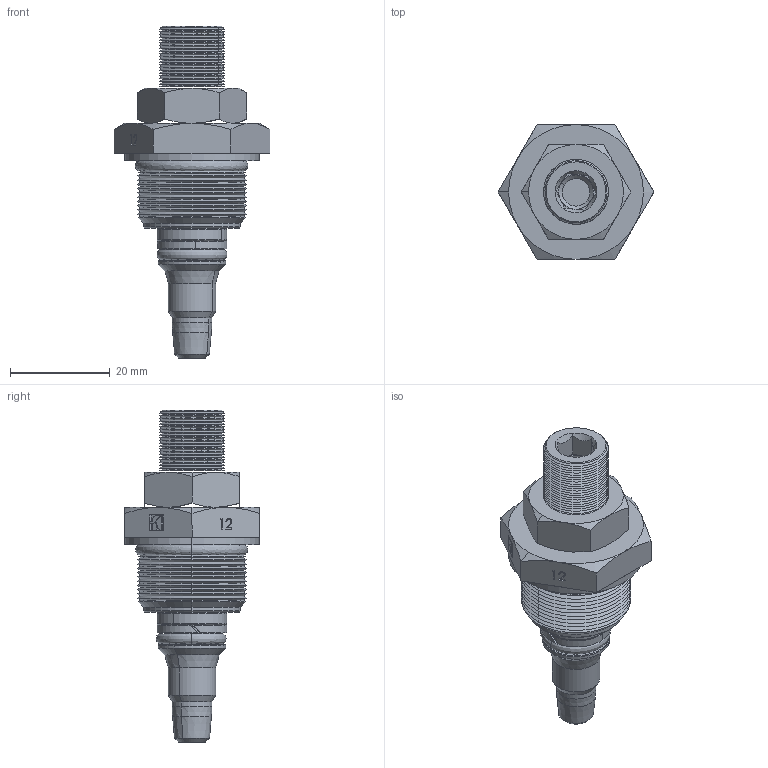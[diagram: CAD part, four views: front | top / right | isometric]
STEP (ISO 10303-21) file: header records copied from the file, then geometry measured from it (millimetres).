
FILE_DESCRIPTION (( 'STEP AP214' ), '1' );
FILE_NAME ('243-2-12.STEP', '2015-05-15T13:50:10', ( '' ), ( '' ), 'SwSTEP 2.0', 'SolidWorks 2014', '' );
FILE_SCHEMA (( 'AUTOMOTIVE_DESIGN' ));
Length unit declared in the file: millimetre
Products named in the file (1): 243-2-12
Bounding box: 31.18 x 27 x 66.5 mm (x, y, z)
Surface area: 6685.2 mm2 (no closed solid volume)
Topology: 0 solids, 13 shells, 346 faces, 839 edges, 504 vertices
Faces by surface type: cone 166, plane 104, bspline 41, cylinder 27, torus 8
Entity records: 15853 total; most frequent: CARTESIAN_POINT 4231, DIRECTION 1606, ORIENTED_EDGE 1561, EDGE_CURVE 839, AXIS2_PLACEMENT_3D 578, VERTEX_POINT 504, LINE 450, VECTOR 450
